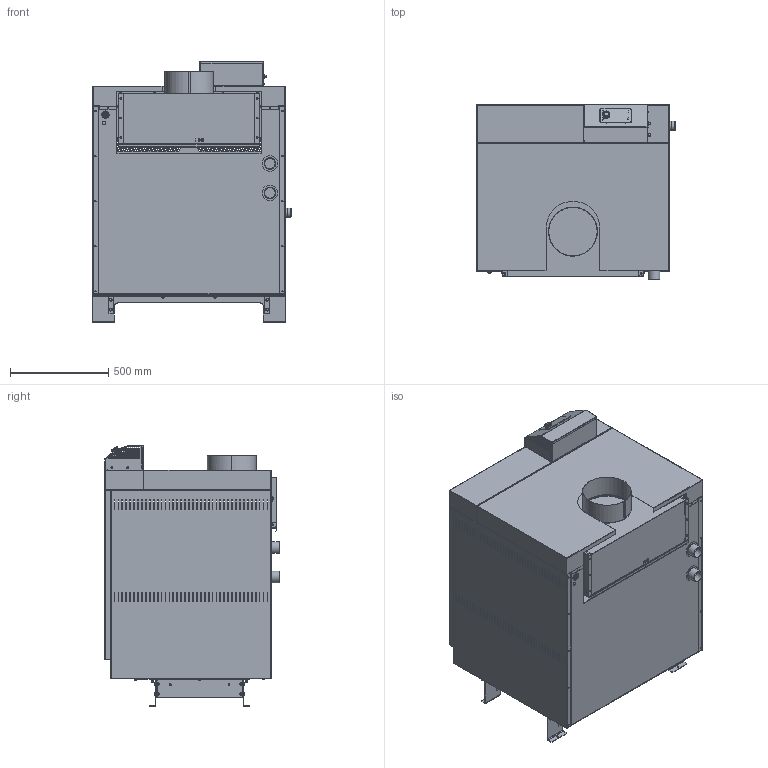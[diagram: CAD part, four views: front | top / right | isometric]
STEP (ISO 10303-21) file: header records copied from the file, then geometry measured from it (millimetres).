
FILE_DESCRIPTION(('STEP AP203'), '1');
FILE_NAME('TITAN V 150', '2025-12-03T09:22:57', (''), (''), 'ASCON STEP Converter 1.6', 'ASCON Math Kernel', '');
FILE_SCHEMA(('CONFIG_CONTROL_DESIGN'));
Length unit declared in the file: millimetre
Products named in the file (1): -01
Bounding box: 1011 x 895.63 x 1330.4 mm (x, y, z)
Volume: 11028966 mm3; surface area: 12949242.2 mm2
Topology: 20 solids, 21 shells, 4448 faces, 11621 edges, 7466 vertices
Faces by surface type: plane 3275, cylinder 783, bspline 206, torus 85, cone 72, sphere 25, extrusion 2
Full cylindrical faces by diameter (mm): 2 x2, 2.45 x22, 2.5 x6, 3 x16, 3.2 x2, 3.5 x6, 4 x30, 4.2 x8, 4.5 x30, 4.7 x1, 5 x5, 6 x11, 7 x6, 8 x26, 8.5 x16, 9 x17, 10 x14, 10.421 x1, 12 x1, 14 x3, 14.795 x1, 15 x1, 16 x12, 19.169 x1, 23.542 x1, 24.5 x2, 27.916 x1, 30.664 x1, 32 x2, 36 x1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
Entity records: 158645 total; most frequent: CARTESIAN_POINT 49740, ORIENTED_EDGE 22395, DIRECTION 20909, EDGE_CURVE 11199, VECTOR 8317, LINE 8315, VERTEX_POINT 7465, AXIS2_PLACEMENT_3D 6296
